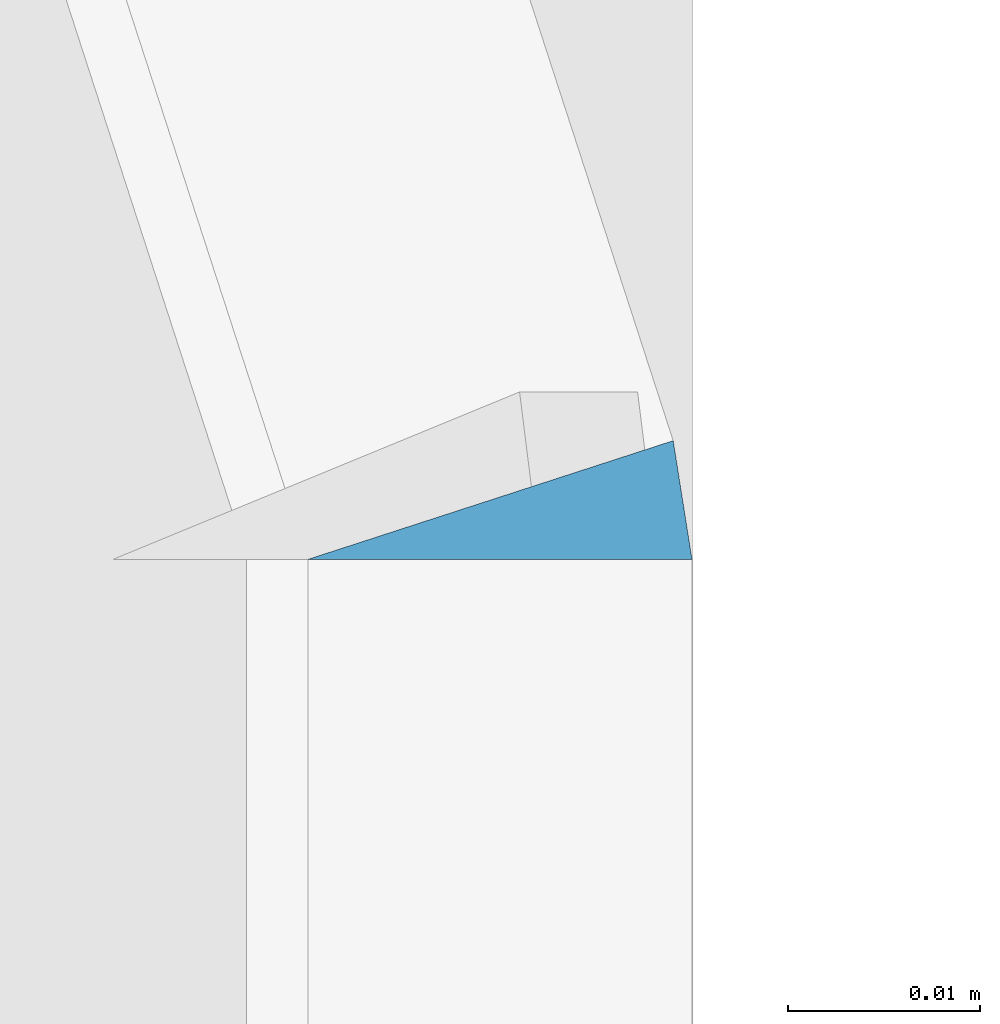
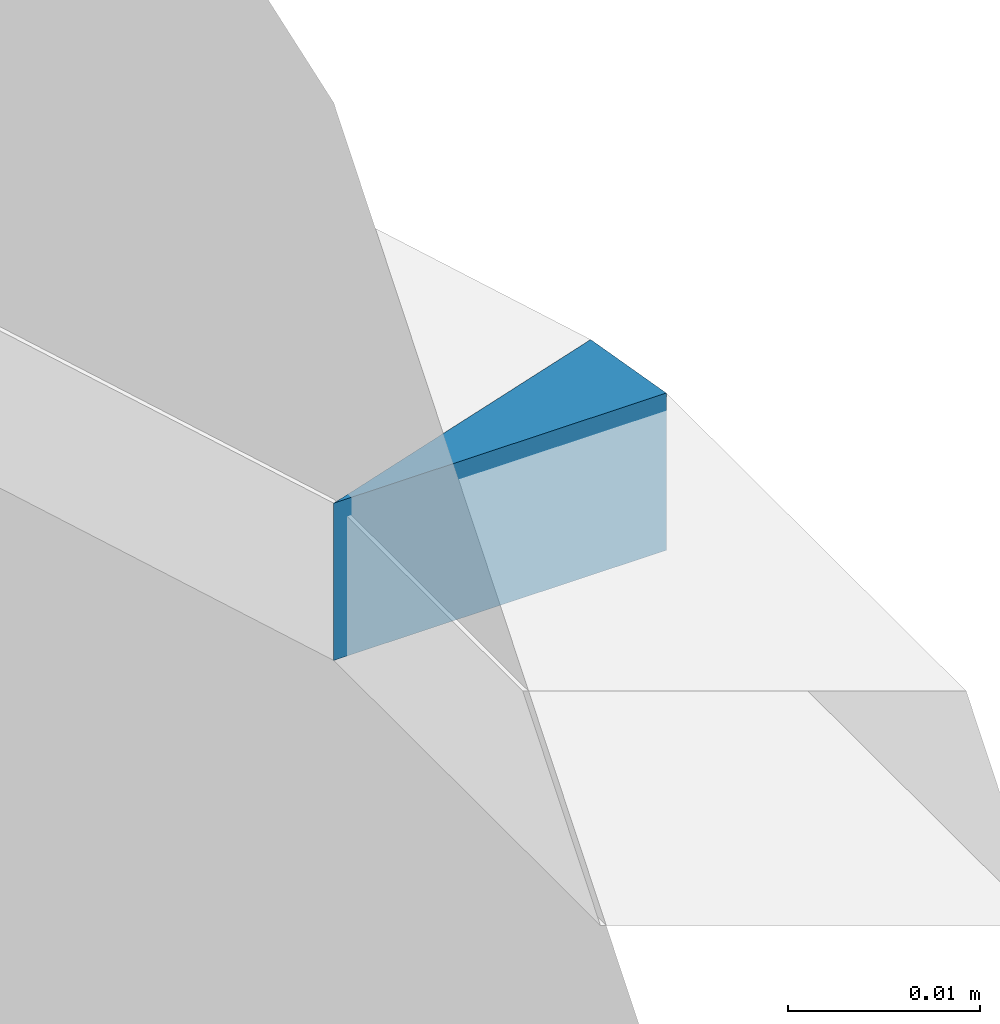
# One storey, part 364 of 583: 1 slab.
"""IFC2X3 building model written with IfcOpenShell, lengths in metres."""

from ifc_helpers import new_model, entity, si_unit, converted_unit, derived_unit, money_unit, direction, frame, origin_with_axes, place, context, subcontext, project, spatial, faceted_brep, material, type_object, element, save


model = new_model("IFC2X3")

# Units and contexts
model_context = context("Model", 3, precision=1e-05, world=origin_with_axes(), true_north=direction((0.0, 1.0)))
body_context = subcontext(model_context, "Body", "Model", "MODEL_VIEW", scale=1.0)
ifc_project = project(units=[si_unit("LENGTHUNIT", "METRE"), si_unit("AREAUNIT", "SQUARE_METRE"), si_unit("VOLUMEUNIT", "CUBIC_METRE"), si_unit("ABSORBEDDOSEUNIT", "GRAY"), si_unit("AMOUNTOFSUBSTANCEUNIT", "MOLE"), si_unit("DOSEEQUIVALENTUNIT", "SIEVERT"), si_unit("ELECTRICCAPACITANCEUNIT", "FARAD"), si_unit("ELECTRICCHARGEUNIT", "COULOMB"), si_unit("ELECTRICCONDUCTANCEUNIT", "SIEMENS"), si_unit("ELECTRICCURRENTUNIT", "AMPERE"), si_unit("ELECTRICRESISTANCEUNIT", "OHM"), si_unit("ELECTRICVOLTAGEUNIT", "VOLT"), si_unit("ENERGYUNIT", "JOULE"), si_unit("FORCEUNIT", "NEWTON"), si_unit("FREQUENCYUNIT", "HERTZ"), si_unit("ILLUMINANCEUNIT", "LUX"), si_unit("INDUCTANCEUNIT", "HENRY"), si_unit("LUMINOUSFLUXUNIT", "LUMEN"), si_unit("LUMINOUSINTENSITYUNIT", "CANDELA"), si_unit("MAGNETICFLUXDENSITYUNIT", "TESLA"), si_unit("MAGNETICFLUXUNIT", "WEBER"), si_unit("MASSUNIT", "GRAM"), converted_unit("PLANEANGLEUNIT", "degree", entity("IfcReal", 0.0174532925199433), si_unit("PLANEANGLEUNIT", "RADIAN"), dimensions=[0, 0, 0, 0, 0, 0, 0]), si_unit("POWERUNIT", "WATT"), si_unit("PRESSUREUNIT", "PASCAL"), si_unit("RADIOACTIVITYUNIT", "BECQUEREL"), si_unit("SOLIDANGLEUNIT", "STERADIAN"), si_unit("THERMODYNAMICTEMPERATUREUNIT", "KELVIN"), si_unit("TIMEUNIT", "SECOND"), derived_unit("ACCELERATIONUNIT", [(si_unit("LENGTHUNIT", "METRE"), 1), (si_unit("TIMEUNIT", "SECOND"), -2)]), derived_unit("ANGULARVELOCITYUNIT", [(converted_unit("PLANEANGLEUNIT", "degree", entity("IfcReal", 0.0174532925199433), si_unit("PLANEANGLEUNIT", "RADIAN"), dimensions=[0, 0, 0, 0, 0, 0, 0]), 1), (si_unit("TIMEUNIT", "SECOND"), -1)]), derived_unit("CURVATUREUNIT", [(converted_unit("PLANEANGLEUNIT", "degree", entity("IfcReal", 0.0174532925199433), si_unit("PLANEANGLEUNIT", "RADIAN"), dimensions=[0, 0, 0, 0, 0, 0, 0]), 1), (si_unit("LENGTHUNIT", "METRE"), -1)]), derived_unit("DYNAMICVISCOSITYUNIT", [(si_unit("PRESSUREUNIT", "PASCAL"), 1), (si_unit("TIMEUNIT", "SECOND"), 1)]), derived_unit("HEATFLUXDENSITYUNIT", [(si_unit("POWERUNIT", "WATT"), 1), (si_unit("LENGTHUNIT", "METRE"), -2)]), derived_unit("HEATINGVALUEUNIT", [(si_unit("ENERGYUNIT", "JOULE"), 1), (si_unit("MASSUNIT", "GRAM"), -1)]), derived_unit("INTEGERCOUNTRATEUNIT", [(si_unit("TIMEUNIT", "SECOND"), -1)]), derived_unit("IONCONCENTRATIONUNIT", [(si_unit("MASSUNIT", "GRAM"), 1), (si_unit("VOLUMEUNIT", "CUBIC_METRE"), -1)]), derived_unit("ISOTHERMALMOISTURECAPACITYUNIT", [(si_unit("VOLUMEUNIT", "CUBIC_METRE"), 1), (si_unit("MASSUNIT", "GRAM"), -1)]), derived_unit("KINEMATICVISCOSITYUNIT", [(si_unit("AREAUNIT", "SQUARE_METRE"), 1), (si_unit("TIMEUNIT", "SECOND"), -1)]), derived_unit("LINEARFORCEUNIT", [(si_unit("FORCEUNIT", "NEWTON"), 1), (si_unit("LENGTHUNIT", "METRE"), -1)]), derived_unit("LINEARMOMENTUNIT", [(si_unit("FORCEUNIT", "NEWTON"), 1), (si_unit("LENGTHUNIT", "METRE"), -1)]), derived_unit("LINEARSTIFFNESSUNIT", [(si_unit("FORCEUNIT", "NEWTON"), 1), (si_unit("LENGTHUNIT", "METRE"), -1)]), derived_unit("LINEARVELOCITYUNIT", [(si_unit("LENGTHUNIT", "METRE"), 1), (si_unit("TIMEUNIT", "SECOND"), -1)]), derived_unit("LUMINOUSINTENSITYDISTRIBUTIONUNIT", [(si_unit("LUMINOUSINTENSITYUNIT", "CANDELA"), 1), (si_unit("LUMINOUSFLUXUNIT", "LUMEN"), -1)]), derived_unit("MASSDENSITYUNIT", [(si_unit("MASSUNIT", "GRAM"), 1), (si_unit("VOLUMEUNIT", "CUBIC_METRE"), -1)]), derived_unit("MASSFLOWRATEUNIT", [(si_unit("MASSUNIT", "GRAM"), 1), (si_unit("TIMEUNIT", "SECOND"), -1)]), derived_unit("MASSPERLENGTHUNIT", [(si_unit("MASSUNIT", "GRAM"), 1), (si_unit("LENGTHUNIT", "METRE"), -1)]), derived_unit("MODULUSOFELASTICITYUNIT", [(si_unit("FORCEUNIT", "NEWTON"), 1), (si_unit("AREAUNIT", "SQUARE_METRE"), -1)]), derived_unit("MODULUSOFLINEARSUBGRADEREACTIONUNIT", [(si_unit("FORCEUNIT", "NEWTON"), 1), (si_unit("LENGTHUNIT", "METRE"), -2)]), derived_unit("MODULUSOFROTATIONALSUBGRADEREACTIONUNIT", [(si_unit("FORCEUNIT", "NEWTON"), 1), (si_unit("LENGTHUNIT", "METRE"), 1)]), derived_unit("MODULUSOFSUBGRADEREACTIONUNIT", [(si_unit("FORCEUNIT", "NEWTON"), 1), (si_unit("VOLUMEUNIT", "CUBIC_METRE"), -1)]), derived_unit("MOISTUREDIFFUSIVITYUNIT", [(si_unit("VOLUMEUNIT", "CUBIC_METRE"), 1), (si_unit("TIMEUNIT", "SECOND"), -1)]), derived_unit("MOLECULARWEIGHTUNIT", [(si_unit("MASSUNIT", "GRAM"), 1), (si_unit("AMOUNTOFSUBSTANCEUNIT", "MOLE"), -1)]), derived_unit("PLANARFORCEUNIT", [(si_unit("FORCEUNIT", "NEWTON"), 1), (si_unit("LENGTHUNIT", "METRE"), -2)]), derived_unit("ROTATIONALFREQUENCYUNIT", [(si_unit("TIMEUNIT", "SECOND"), -1)]), derived_unit("ROTATIONALMASSUNIT", [(si_unit("MASSUNIT", "GRAM"), 1), (si_unit("LENGTHUNIT", "METRE"), 2)]), derived_unit("ROTATIONALSTIFFNESSUNIT", [(si_unit("FORCEUNIT", "NEWTON"), 1), (si_unit("LENGTHUNIT", "METRE"), 1), (converted_unit("PLANEANGLEUNIT", "degree", entity("IfcReal", 0.0174532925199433), si_unit("PLANEANGLEUNIT", "RADIAN"), dimensions=[0, 0, 0, 0, 0, 0, 0]), -1)]), derived_unit("SECTIONAREAINTEGRALUNIT", [(si_unit("LENGTHUNIT", "METRE"), 5)]), derived_unit("SECTIONMODULUSUNIT", [(si_unit("LENGTHUNIT", "METRE"), 3)]), derived_unit("SHEARMODULUSUNIT", [(si_unit("FORCEUNIT", "NEWTON"), 1), (si_unit("AREAUNIT", "SQUARE_METRE"), -1)]), derived_unit("SOUNDPOWERUNIT", [(si_unit("ENERGYUNIT", "JOULE"), 1), (si_unit("TIMEUNIT", "SECOND"), -1)]), derived_unit("SPECIFICHEATCAPACITYUNIT", [(si_unit("FORCEUNIT", "NEWTON"), 1), (si_unit("MASSUNIT", "GRAM"), -1), (si_unit("THERMODYNAMICTEMPERATUREUNIT", "KELVIN"), -1)]), derived_unit("TEMPERATUREGRADIENTUNIT", [(si_unit("THERMODYNAMICTEMPERATUREUNIT", "KELVIN"), 1), (si_unit("LENGTHUNIT", "METRE"), -1)]), derived_unit("THERMALADMITTANCEUNIT", [(si_unit("POWERUNIT", "WATT"), 1), (si_unit("AREAUNIT", "SQUARE_METRE"), -1), (si_unit("THERMODYNAMICTEMPERATUREUNIT", "KELVIN"), -1)]), derived_unit("THERMALCONDUCTANCEUNIT", [(si_unit("POWERUNIT", "WATT"), 1), (si_unit("LENGTHUNIT", "METRE"), -1), (si_unit("THERMODYNAMICTEMPERATUREUNIT", "KELVIN"), -1)]), derived_unit("THERMALEXPANSIONCOEFFICIENTUNIT", [(si_unit("THERMODYNAMICTEMPERATUREUNIT", "KELVIN"), -1)]), derived_unit("THERMALRESISTANCEUNIT", [(si_unit("AREAUNIT", "SQUARE_METRE"), 1), (si_unit("POWERUNIT", "WATT"), -1)]), derived_unit("THERMALTRANSMITTANCEUNIT", [(si_unit("POWERUNIT", "WATT"), 1), (si_unit("AREAUNIT", "SQUARE_METRE"), -1), (si_unit("THERMODYNAMICTEMPERATUREUNIT", "KELVIN"), -1)]), derived_unit("TORQUEUNIT", [(si_unit("FORCEUNIT", "NEWTON"), 1), (si_unit("LENGTHUNIT", "METRE"), 1)]), derived_unit("VAPORPERMEABILITYUNIT", [(si_unit("MASSUNIT", "GRAM"), 1), (si_unit("TIMEUNIT", "SECOND"), -1)]), derived_unit("VOLUMETRICFLOWRATEUNIT", [(si_unit("VOLUMEUNIT", "CUBIC_METRE"), 1), (si_unit("TIMEUNIT", "SECOND"), -1)]), derived_unit("WARPINGCONSTANTUNIT", [(si_unit("LENGTHUNIT", "METRE"), 6)]), derived_unit("WARPINGMOMENTUNIT", [(si_unit("FORCEUNIT", "NEWTON"), 1), (si_unit("LENGTHUNIT", "METRE"), 2)]), money_unit("GBP")], contexts=[model_context])

# Site, building, storey
site_placement = place(None, origin_with_axes())
site = spatial("IfcSite", under=ifc_project, at=site_placement, Name="Site", CompositionType="ELEMENT")
building_placement = place(site_placement, origin_with_axes())
building = spatial("IfcBuilding", under=site, at=building_placement, Name="Building01", CompositionType="ELEMENT")
storey_placement = place(building_placement, frame((0.0, 0.0, 20.78), z_axis=(0.0, 0.0, 1.0), x_axis=(1.0, 0.0, 0.0)))
storey = spatial("IfcBuildingStorey", under=building, at=storey_placement, Name="RL", CompositionType="ELEMENT", Elevation=20.78)

# Slab
ifc_material = material(Name="A_BSUK_Roofs")
slab_type = type_object("IfcSlabType", Name="A-FloorsSlabs A_BSUK_Slabs", PredefinedType="FLOOR")
slab_placement = place(storey_placement, frame((14.399021, 16.280608, -13.844976), z_axis=(0.0, 1.0, 0.0), x_axis=(0.0, 0.0, -1.0)))
element("IfcSlab", 1, at=slab_placement, inside=storey, type_object=slab_type, material=ifc_material, Name="A-FloorsSlabs A_BSUK_Slabs", ObjectType="A-FloorsSlabs A_BSUK_Slabs", context=body_context, shape_type="Brep", body=[
    faceted_brep([(0.0, -0.000979, -0.00618), (0.01, -0.000979, -0.00618), (0.01, 0.0, 0.0), (0.0, 0.0, 0.0), (0.0, 0.019021, -0.00618), (0.01, 0.019021, -0.00618)], [[[0, 1, 2, 3]], [[4, 5, 1, 0]], [[3, 2, 5, 4]], [[1, 5, 2]], [[3, 4, 0]]]),
])

save(model, "model.ifc")
